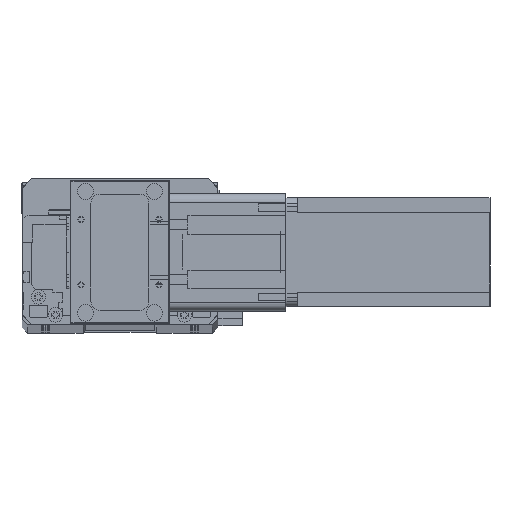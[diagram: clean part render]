
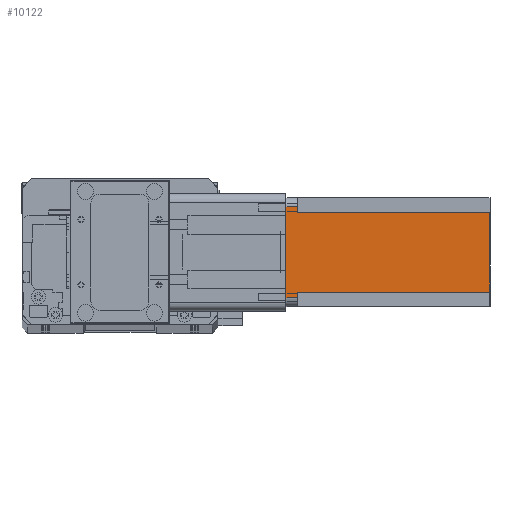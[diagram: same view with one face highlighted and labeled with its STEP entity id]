
A CAD part, top view. The second image highlights one B-rep face of the part: STEP entity #10122.
In plain terms, the highlighted planar face has unit normal (0, 0, 1) as drawn and (0, 1, 0) by its records, which use the part's own axes.
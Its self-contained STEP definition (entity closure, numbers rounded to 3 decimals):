
#1088 = ORIENTED_EDGE ( 'NONE', *, *, #9654, .T. ) ;
#1122 = EDGE_CURVE ( 'NONE', #17746, #11874, #13079, .T. ) ;
#1222 = VECTOR ( 'NONE', #20841, 1000. ) ;
#1507 = CARTESIAN_POINT ( 'NONE',  ( 0., 60., -112.5 ) ) ;
#1903 = CARTESIAN_POINT ( 'NONE',  ( 8., 60., -112.5 ) ) ;
#2176 = VERTEX_POINT ( 'NONE', #14055 ) ;
#3686 = CARTESIAN_POINT ( 'NONE',  ( 0., 60., 0. ) ) ;
#4038 = VECTOR ( 'NONE', #27253, 1000. ) ;
#4049 = VERTEX_POINT ( 'NONE', #17049 ) ;
#4318 = EDGE_CURVE ( 'NONE', #28768, #11874, #9945, .T. ) ;
#5844 = ORIENTED_EDGE ( 'NONE', *, *, #4318, .T. ) ;
#6908 = CARTESIAN_POINT ( 'NONE',  ( 5., 60., -112.5 ) ) ;
#7796 = CARTESIAN_POINT ( 'NONE',  ( 8., 60., -6.5 ) ) ;
#9654 = EDGE_CURVE ( 'NONE', #2176, #11403, #23662, .T. ) ;
#9945 = LINE ( 'NONE', #29925, #24374 ) ;
#10054 = EDGE_CURVE ( 'NONE', #28768, #11403, #11811, .T. ) ;
#10122 = ADVANCED_FACE ( 'NONE', ( #20699 ), #22119, .T. ) ;
#10973 = VERTEX_POINT ( 'NONE', #16072 ) ;
#11403 = VERTEX_POINT ( 'NONE', #22864 ) ;
#11811 = LINE ( 'NONE', #3686, #4038 ) ;
#11874 = VERTEX_POINT ( 'NONE', #29432 ) ;
#12688 = DIRECTION ( 'NONE',  ( 0., 1., 0. ) ) ;
#12817 = EDGE_CURVE ( 'NONE', #27237, #2176, #28316, .T. ) ;
#13041 = ORIENTED_EDGE ( 'NONE', *, *, #30249, .F. ) ;
#13079 = LINE ( 'NONE', #18241, #1222 ) ;
#13674 = CARTESIAN_POINT ( 'NONE',  ( 52., 60., -112.5 ) ) ;
#14055 = CARTESIAN_POINT ( 'NONE',  ( 5., 60., -6.5 ) ) ;
#14948 = VECTOR ( 'NONE', #23208, 1000. ) ;
#15574 = AXIS2_PLACEMENT_3D ( 'NONE', #17363, #12688, #29205 ) ;
#16072 = CARTESIAN_POINT ( 'NONE',  ( 52., 60., -112.5 ) ) ;
#17049 = CARTESIAN_POINT ( 'NONE',  ( 8., 60., -112.5 ) ) ;
#17219 = ORIENTED_EDGE ( 'NONE', *, *, #19187, .F. ) ;
#17363 = CARTESIAN_POINT ( 'NONE',  ( 0., 60., -112.5 ) ) ;
#17746 = VERTEX_POINT ( 'NONE', #28846 ) ;
#18241 = CARTESIAN_POINT ( 'NONE',  ( 52., 60., -6.5 ) ) ;
#18661 = ORIENTED_EDGE ( 'NONE', *, *, #1122, .F. ) ;
#19187 = EDGE_CURVE ( 'NONE', #27237, #4049, #21264, .T. ) ;
#19514 = ORIENTED_EDGE ( 'NONE', *, *, #12817, .T. ) ;
#19956 = ORIENTED_EDGE ( 'NONE', *, *, #22321, .T. ) ;
#20699 = FACE_OUTER_BOUND ( 'NONE', #24967, .T. ) ;
#20717 = VECTOR ( 'NONE', #22703, 1000. ) ;
#20730 = VECTOR ( 'NONE', #30566, 1000. ) ;
#20841 = DIRECTION ( 'NONE',  ( 1., 0., 0. ) ) ;
#21018 = VECTOR ( 'NONE', #30172, 1000. ) ;
#21264 = LINE ( 'NONE', #1903, #14948 ) ;
#21745 = LINE ( 'NONE', #13674, #21018 ) ;
#22038 = VECTOR ( 'NONE', #29067, 1000. ) ;
#22119 = PLANE ( 'NONE',  #15574 ) ;
#22321 = EDGE_CURVE ( 'NONE', #10973, #4049, #25471, .T. ) ;
#22703 = DIRECTION ( 'NONE',  ( -1., 0., 0. ) ) ;
#22864 = CARTESIAN_POINT ( 'NONE',  ( 5., 60., 0. ) ) ;
#22917 = DIRECTION ( 'NONE',  ( 0., 0., -1. ) ) ;
#23208 = DIRECTION ( 'NONE',  ( 0., 0., -1. ) ) ;
#23662 = LINE ( 'NONE', #6908, #20730 ) ;
#23850 = CARTESIAN_POINT ( 'NONE',  ( 55., 60., 0. ) ) ;
#24374 = VECTOR ( 'NONE', #22917, 1000. ) ;
#24967 = EDGE_LOOP ( 'NONE', ( #27567, #5844, #18661, #13041, #19956, #17219, #19514, #1088 ) ) ;
#25471 = LINE ( 'NONE', #1507, #20717 ) ;
#27237 = VERTEX_POINT ( 'NONE', #30306 ) ;
#27253 = DIRECTION ( 'NONE',  ( -1., 0., 0. ) ) ;
#27567 = ORIENTED_EDGE ( 'NONE', *, *, #10054, .F. ) ;
#28316 = LINE ( 'NONE', #7796, #22038 ) ;
#28768 = VERTEX_POINT ( 'NONE', #23850 ) ;
#28846 = CARTESIAN_POINT ( 'NONE',  ( 52., 60., -6.5 ) ) ;
#29067 = DIRECTION ( 'NONE',  ( -1., 0., 0. ) ) ;
#29205 = DIRECTION ( 'NONE',  ( 0., 0., 1. ) ) ;
#29432 = CARTESIAN_POINT ( 'NONE',  ( 55., 60., -6.5 ) ) ;
#29925 = CARTESIAN_POINT ( 'NONE',  ( 55., 60., -112.5 ) ) ;
#30172 = DIRECTION ( 'NONE',  ( 0., 0., 1. ) ) ;
#30249 = EDGE_CURVE ( 'NONE', #10973, #17746, #21745, .T. ) ;
#30306 = CARTESIAN_POINT ( 'NONE',  ( 8., 60., -6.5 ) ) ;
#30566 = DIRECTION ( 'NONE',  ( 0., 0., 1. ) ) ;
